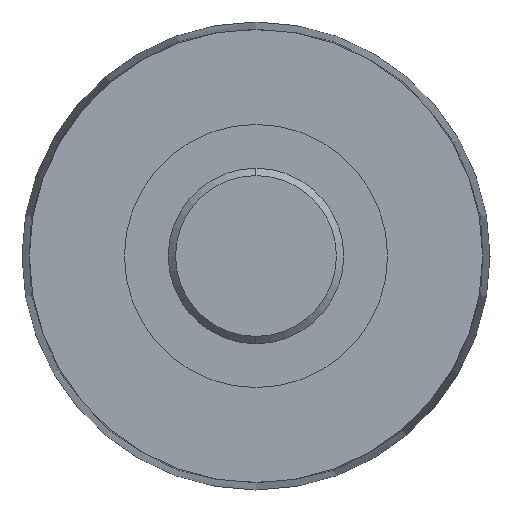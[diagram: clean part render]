
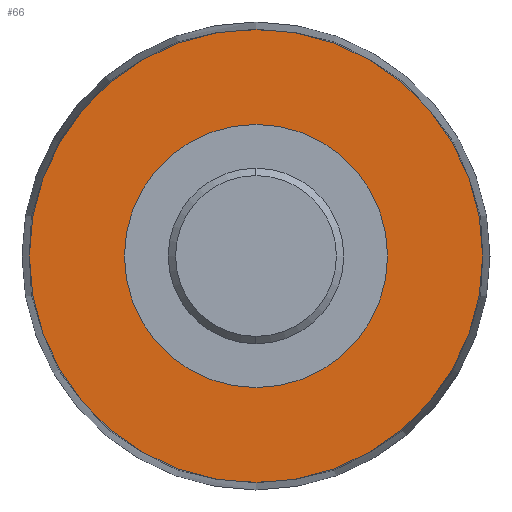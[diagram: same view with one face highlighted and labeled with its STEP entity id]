
A CAD part, left-side view. The second image highlights one B-rep face of the part: STEP entity #66.
In plain terms, the highlighted planar face has unit normal (-1, 0, 0).
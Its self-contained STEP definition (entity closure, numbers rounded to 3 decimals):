
#22 = DIRECTION ( 'NONE',  ( -1., 0., 0. ) ) ;
#32 = DIRECTION ( 'NONE',  ( 0., 0., 1. ) ) ;
#66 = ADVANCED_FACE ( 'NONE', ( #488, #513 ), #523, .F. ) ;
#67 = EDGE_LOOP ( 'NONE', ( #278, #231 ) ) ;
#70 = ORIENTED_EDGE ( 'NONE', *, *, #179, .F. ) ;
#74 = ORIENTED_EDGE ( 'NONE', *, *, #77, .F. ) ;
#75 = EDGE_CURVE ( 'NONE', #115, #150, #311, .T. ) ;
#77 = EDGE_CURVE ( 'NONE', #175, #174, #362, .T. ) ;
#81 = EDGE_LOOP ( 'NONE', ( #70, #74 ) ) ;
#115 = VERTEX_POINT ( 'NONE', #552 ) ;
#150 = VERTEX_POINT ( 'NONE', #645 ) ;
#170 = EDGE_CURVE ( 'NONE', #150, #115, #660, .T. ) ;
#174 = VERTEX_POINT ( 'NONE', #662 ) ;
#175 = VERTEX_POINT ( 'NONE', #673 ) ;
#179 = EDGE_CURVE ( 'NONE', #174, #175, #746, .T. ) ;
#231 = ORIENTED_EDGE ( 'NONE', *, *, #170, .T. ) ;
#278 = ORIENTED_EDGE ( 'NONE', *, *, #75, .T. ) ;
#306 = CARTESIAN_POINT ( 'NONE',  ( 14., 0., 0. ) ) ;
#308 = AXIS2_PLACEMENT_3D ( 'NONE', #306, #22, #32 ) ;
#311 = CIRCLE ( 'NONE', #308, 15.5 ) ;
#336 = DIRECTION ( 'NONE',  ( -1., 0., 0. ) ) ;
#352 = DIRECTION ( 'NONE',  ( 0., 0., 1. ) ) ;
#354 = CARTESIAN_POINT ( 'NONE',  ( 14., 0., 0. ) ) ;
#355 = AXIS2_PLACEMENT_3D ( 'NONE', #354, #336, #352 ) ;
#362 = CIRCLE ( 'NONE', #355, 9. ) ;
#488 = FACE_BOUND ( 'NONE', #81, .T. ) ;
#507 = DIRECTION ( 'NONE',  ( 0., 0., -1. ) ) ;
#508 = DIRECTION ( 'NONE',  ( 1., 0., 0. ) ) ;
#509 = CARTESIAN_POINT ( 'NONE',  ( 14., 15.5, 0. ) ) ;
#510 = AXIS2_PLACEMENT_3D ( 'NONE', #509, #508, #507 ) ;
#513 = FACE_OUTER_BOUND ( 'NONE', #67, .T. ) ;
#523 = PLANE ( 'NONE',  #510 ) ;
#552 = CARTESIAN_POINT ( 'NONE',  ( 14., 0., -15.5 ) ) ;
#645 = CARTESIAN_POINT ( 'NONE',  ( 14., 0., 15.5 ) ) ;
#648 = AXIS2_PLACEMENT_3D ( 'NONE', #667, #687, #686 ) ;
#660 = CIRCLE ( 'NONE', #648, 15.5 ) ;
#662 = CARTESIAN_POINT ( 'NONE',  ( 14., 0., 9. ) ) ;
#667 = CARTESIAN_POINT ( 'NONE',  ( 14., 0., 0. ) ) ;
#673 = CARTESIAN_POINT ( 'NONE',  ( 14., 0., -9. ) ) ;
#686 = DIRECTION ( 'NONE',  ( 0., 0., 1. ) ) ;
#687 = DIRECTION ( 'NONE',  ( -1., 0., 0. ) ) ;
#739 = DIRECTION ( 'NONE',  ( 0., 0., 1. ) ) ;
#746 = CIRCLE ( 'NONE', #750, 9. ) ;
#749 = CARTESIAN_POINT ( 'NONE',  ( 14., 0., 0. ) ) ;
#750 = AXIS2_PLACEMENT_3D ( 'NONE', #749, #780, #739 ) ;
#780 = DIRECTION ( 'NONE',  ( -1., 0., 0. ) ) ;
